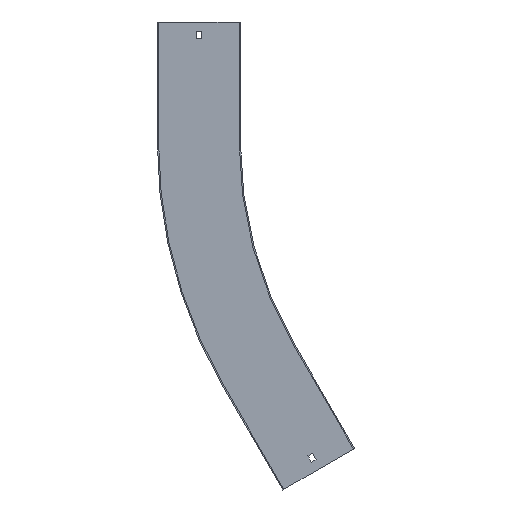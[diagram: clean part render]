
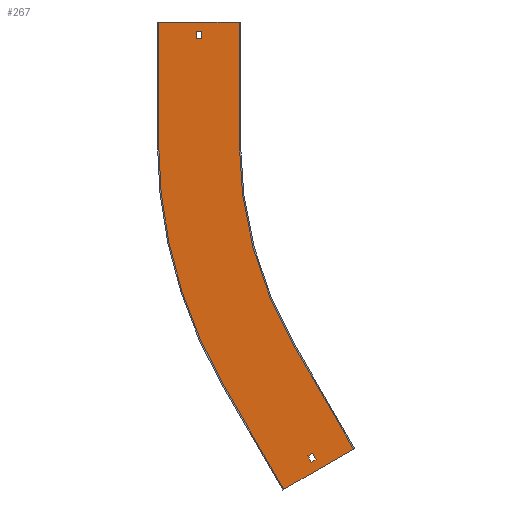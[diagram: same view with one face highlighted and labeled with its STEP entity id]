
A CAD part, front view. The second image highlights one B-rep face of the part: STEP entity #267.
In plain terms, the highlighted planar face has unit normal (0, -1, 0).
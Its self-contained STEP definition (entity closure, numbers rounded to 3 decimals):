
#2 = VERTEX_POINT ( 'NONE', #100 ) ;
#13 = EDGE_CURVE ( 'NONE', #209, #172, #389, .T. ) ;
#23 = EDGE_CURVE ( 'NONE', #60, #2, #369, .T. ) ;
#25 = VECTOR ( 'NONE', #754, 1000. ) ;
#34 = VECTOR ( 'NONE', #679, 1000. ) ;
#46 = CARTESIAN_POINT ( 'NONE',  ( -600., -1.5, 150. ) ) ;
#60 = VERTEX_POINT ( 'NONE', #827 ) ;
#63 = FACE_BOUND ( 'NONE', #391, .T. ) ;
#64 = DIRECTION ( 'NONE',  ( 0.5, 0., -0.866 ) ) ;
#73 = LINE ( 'NONE', #336, #94 ) ;
#74 = ORIENTED_EDGE ( 'NONE', *, *, #603, .T. ) ;
#82 = DIRECTION ( 'NONE',  ( 0.5, 0., -0.866 ) ) ;
#86 = CARTESIAN_POINT ( 'NONE',  ( -546.75, -1.5, 129. ) ) ;
#92 = VERTEX_POINT ( 'NONE', #529 ) ;
#94 = VECTOR ( 'NONE', #596, 1000. ) ;
#99 = DIRECTION ( 'NONE',  ( 0., 0., 1. ) ) ;
#100 = CARTESIAN_POINT ( 'NONE',  ( -408.999, -1.5, -385.092 ) ) ;
#103 = DIRECTION ( 'NONE',  ( 0., 1., 0. ) ) ;
#124 = DIRECTION ( 'NONE',  ( 0., -1., 0. ) ) ;
#126 = CARTESIAN_POINT ( 'NONE',  ( -601.5, -1.5, 150. ) ) ;
#142 = CARTESIAN_POINT ( 'NONE',  ( -500., -1.5, 150. ) ) ;
#144 = EDGE_CURVE ( 'NONE', #2, #855, #73, .T. ) ;
#148 = ORIENTED_EDGE ( 'NONE', *, *, #736, .F. ) ;
#161 = ORIENTED_EDGE ( 'NONE', *, *, #854, .F. ) ;
#165 = AXIS2_PLACEMENT_3D ( 'NONE', #822, #103, #360 ) ;
#167 = CARTESIAN_POINT ( 'NONE',  ( -444.615, -1.5, -429.904 ) ) ;
#171 = EDGE_CURVE ( 'NONE', #616, #216, #343, .T. ) ;
#172 = VERTEX_POINT ( 'NONE', #669 ) ;
#179 = VECTOR ( 'NONE', #448, 1000. ) ;
#185 = DIRECTION ( 'NONE',  ( 0., -1., 0. ) ) ;
#192 = CARTESIAN_POINT ( 'NONE',  ( -500., -1.5, 150. ) ) ;
#195 = LINE ( 'NONE', #261, #843 ) ;
#209 = VERTEX_POINT ( 'NONE', #537 ) ;
#216 = VERTEX_POINT ( 'NONE', #231 ) ;
#224 = ORIENTED_EDGE ( 'NONE', *, *, #23, .F. ) ;
#231 = CARTESIAN_POINT ( 'NONE',  ( -500., -1.5, 0. ) ) ;
#240 = LINE ( 'NONE', #356, #371 ) ;
#252 = LINE ( 'NONE', #712, #179 ) ;
#261 = CARTESIAN_POINT ( 'NONE',  ( 0., -1.5, 138. ) ) ;
#267 = ADVANCED_FACE ( 'NONE', ( #572, #841, #63 ), #412, .T. ) ;
#268 = ORIENTED_EDGE ( 'NONE', *, *, #477, .T. ) ;
#290 = VECTOR ( 'NONE', #82, 1000. ) ;
#292 = ORIENTED_EDGE ( 'NONE', *, *, #171, .F. ) ;
#311 = ORIENTED_EDGE ( 'NONE', *, *, #144, .F. ) ;
#312 = LINE ( 'NONE', #546, #34 ) ;
#318 = CARTESIAN_POINT ( 'NONE',  ( 0., -1.5, 0. ) ) ;
#325 = VERTEX_POINT ( 'NONE', #381 ) ;
#330 = VECTOR ( 'NONE', #99, 1000. ) ;
#333 = EDGE_CURVE ( 'NONE', #474, #60, #252, .T. ) ;
#336 = CARTESIAN_POINT ( 'NONE',  ( 64.5, -1.5, -111.717 ) ) ;
#343 = LINE ( 'NONE', #142, #467 ) ;
#346 = EDGE_CURVE ( 'NONE', #743, #92, #742, .T. ) ;
#350 = CARTESIAN_POINT ( 'NONE',  ( -546.75, -1.5, 0. ) ) ;
#356 = CARTESIAN_POINT ( 'NONE',  ( 0., -1.5, 129. ) ) ;
#360 = DIRECTION ( 'NONE',  ( 0., 0., -1. ) ) ;
#364 = CARTESIAN_POINT ( 'NONE',  ( -356.714, -1.5, -379.154 ) ) ;
#367 = ORIENTED_EDGE ( 'NONE', *, *, #13, .F. ) ;
#368 = LINE ( 'NONE', #482, #630 ) ;
#369 = LINE ( 'NONE', #494, #25 ) ;
#371 = VECTOR ( 'NONE', #435, 1000. ) ;
#372 = ORIENTED_EDGE ( 'NONE', *, *, #444, .T. ) ;
#373 = CARTESIAN_POINT ( 'NONE',  ( -546.75, -1.5, 138. ) ) ;
#374 = DIRECTION ( 'NONE',  ( 0., 0., -1. ) ) ;
#377 = LINE ( 'NONE', #624, #330 ) ;
#381 = CARTESIAN_POINT ( 'NONE',  ( -553.25, -1.5, 129. ) ) ;
#387 = EDGE_CURVE ( 'NONE', #92, #758, #835, .T. ) ;
#389 = CIRCLE ( 'NONE', #165, 600. ) ;
#391 = EDGE_LOOP ( 'NONE', ( #74, #268, #372, #689 ) ) ;
#392 = DIRECTION ( 'NONE',  ( 1., 0., 0. ) ) ;
#412 = PLANE ( 'NONE',  #646 ) ;
#416 = ORIENTED_EDGE ( 'NONE', *, *, #387, .F. ) ;
#430 = DIRECTION ( 'NONE',  ( -0.866, 0., -0.5 ) ) ;
#434 = VERTEX_POINT ( 'NONE', #491 ) ;
#435 = DIRECTION ( 'NONE',  ( -1., 0., 0. ) ) ;
#444 = EDGE_CURVE ( 'NONE', #727, #325, #240, .T. ) ;
#448 = DIRECTION ( 'NONE',  ( 0.866, 0., 0.5 ) ) ;
#467 = VECTOR ( 'NONE', #528, 1000. ) ;
#474 = VERTEX_POINT ( 'NONE', #775 ) ;
#477 = EDGE_CURVE ( 'NONE', #785, #727, #750, .T. ) ;
#482 = CARTESIAN_POINT ( 'NONE',  ( -444.615, -1.5, -429.904 ) ) ;
#491 = CARTESIAN_POINT ( 'NONE',  ( -553.25, -1.5, 138. ) ) ;
#494 = CARTESIAN_POINT ( 'NONE',  ( -473.499, -1.5, -273.375 ) ) ;
#526 = CARTESIAN_POINT ( 'NONE',  ( -479.129, -1.5, -276.625 ) ) ;
#528 = DIRECTION ( 'NONE',  ( 0., 0., -1. ) ) ;
#529 = CARTESIAN_POINT ( 'NONE',  ( -358.013, -1.5, -379.904 ) ) ;
#537 = CARTESIAN_POINT ( 'NONE',  ( -519.615, -1.5, -300. ) ) ;
#546 = CARTESIAN_POINT ( 'NONE',  ( -600., -1.5, 0. ) ) ;
#572 = FACE_BOUND ( 'NONE', #766, .T. ) ;
#589 = ORIENTED_EDGE ( 'NONE', *, *, #733, .F. ) ;
#596 = DIRECTION ( 'NONE',  ( -0.866, 0., -0.5 ) ) ;
#603 = EDGE_CURVE ( 'NONE', #434, #785, #195, .T. ) ;
#616 = VERTEX_POINT ( 'NONE', #192 ) ;
#622 = ORIENTED_EDGE ( 'NONE', *, *, #333, .F. ) ;
#624 = CARTESIAN_POINT ( 'NONE',  ( -553.25, -1.5, 0. ) ) ;
#626 = ORIENTED_EDGE ( 'NONE', *, *, #694, .F. ) ;
#630 = VECTOR ( 'NONE', #765, 1000. ) ;
#646 = AXIS2_PLACEMENT_3D ( 'NONE', #318, #185, #374 ) ;
#651 = DIRECTION ( 'NONE',  ( 0., 0., -1. ) ) ;
#653 = LINE ( 'NONE', #526, #779 ) ;
#660 = AXIS2_PLACEMENT_3D ( 'NONE', #715, #124, #651 ) ;
#669 = CARTESIAN_POINT ( 'NONE',  ( -600., -1.5, 0. ) ) ;
#671 = VECTOR ( 'NONE', #392, 1000. ) ;
#675 = CARTESIAN_POINT ( 'NONE',  ( -433.013, -1.5, -250. ) ) ;
#679 = DIRECTION ( 'NONE',  ( 0., 0., 1. ) ) ;
#689 = ORIENTED_EDGE ( 'NONE', *, *, #811, .T. ) ;
#691 = CARTESIAN_POINT ( 'NONE',  ( -433.013, -1.5, -250. ) ) ;
#694 = EDGE_CURVE ( 'NONE', #216, #743, #700, .T. ) ;
#700 = CIRCLE ( 'NONE', #660, 500. ) ;
#712 = CARTESIAN_POINT ( 'NONE',  ( 69., -1.5, -119.512 ) ) ;
#715 = CARTESIAN_POINT ( 'NONE',  ( 0., -1.5, 0. ) ) ;
#717 = VERTEX_POINT ( 'NONE', #46 ) ;
#719 = LINE ( 'NONE', #126, #671 ) ;
#721 = EDGE_CURVE ( 'NONE', #172, #717, #312, .T. ) ;
#727 = VERTEX_POINT ( 'NONE', #86 ) ;
#733 = EDGE_CURVE ( 'NONE', #717, #616, #719, .T. ) ;
#735 = ORIENTED_EDGE ( 'NONE', *, *, #346, .F. ) ;
#736 = EDGE_CURVE ( 'NONE', #855, #474, #653, .T. ) ;
#742 = LINE ( 'NONE', #675, #290 ) ;
#743 = VERTEX_POINT ( 'NONE', #691 ) ;
#750 = LINE ( 'NONE', #350, #776 ) ;
#753 = CARTESIAN_POINT ( 'NONE',  ( -414.629, -1.5, -388.342 ) ) ;
#754 = DIRECTION ( 'NONE',  ( -0.5, 0., 0.866 ) ) ;
#758 = VERTEX_POINT ( 'NONE', #167 ) ;
#765 = DIRECTION ( 'NONE',  ( -0.5, 0., 0.866 ) ) ;
#766 = EDGE_LOOP ( 'NONE', ( #224, #622, #148, #311 ) ) ;
#775 = CARTESIAN_POINT ( 'NONE',  ( -410.129, -1.5, -396.137 ) ) ;
#776 = VECTOR ( 'NONE', #823, 1000. ) ;
#779 = VECTOR ( 'NONE', #64, 1000. ) ;
#784 = DIRECTION ( 'NONE',  ( 1., 0., 0. ) ) ;
#785 = VERTEX_POINT ( 'NONE', #373 ) ;
#795 = ORIENTED_EDGE ( 'NONE', *, *, #721, .F. ) ;
#804 = VECTOR ( 'NONE', #430, 1000. ) ;
#811 = EDGE_CURVE ( 'NONE', #325, #434, #377, .T. ) ;
#822 = CARTESIAN_POINT ( 'NONE',  ( 0., -1.5, 0. ) ) ;
#823 = DIRECTION ( 'NONE',  ( 0., 0., -1. ) ) ;
#827 = CARTESIAN_POINT ( 'NONE',  ( -404.499, -1.5, -392.887 ) ) ;
#835 = LINE ( 'NONE', #364, #804 ) ;
#841 = FACE_OUTER_BOUND ( 'NONE', #860, .T. ) ;
#843 = VECTOR ( 'NONE', #784, 1000. ) ;
#854 = EDGE_CURVE ( 'NONE', #758, #209, #368, .T. ) ;
#855 = VERTEX_POINT ( 'NONE', #753 ) ;
#860 = EDGE_LOOP ( 'NONE', ( #589, #795, #367, #161, #416, #735, #626, #292 ) ) ;
